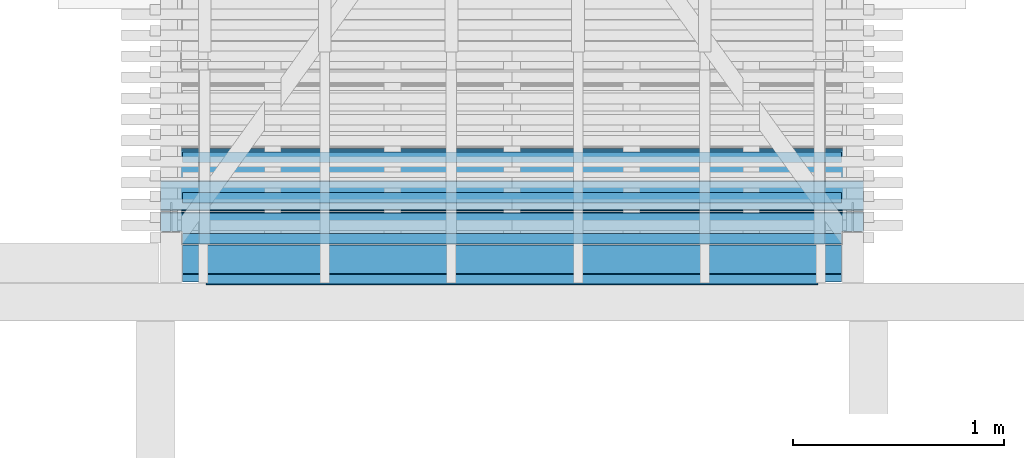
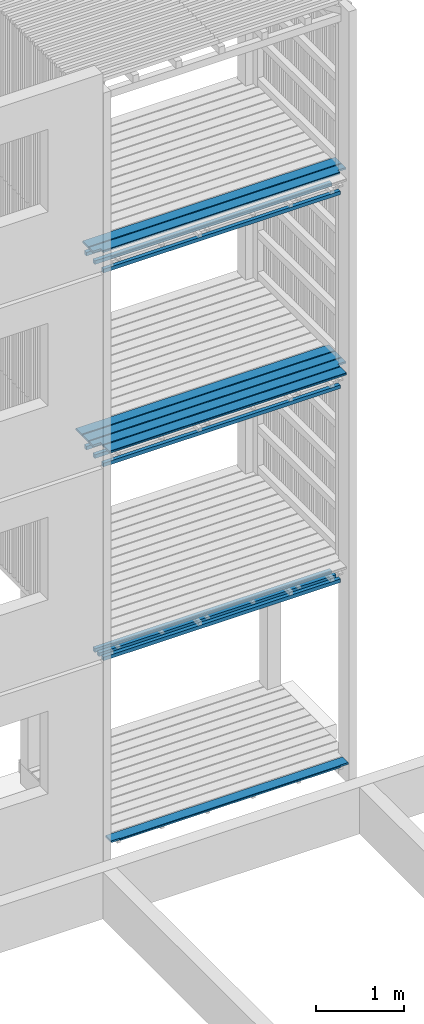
# One storey, part 111 of 182: 16 beams.
"""IFC2X3 building model written with IfcOpenShell, lengths in metres."""

import ifcopenshell
import ifcopenshell.guid

model = None  # the IFC model being written
_history = None  # IfcOwnerHistory: only IFC2X3 demands one
_inside = {}  # id of a spatial element -> (the spatial element, [elements in it])
_under = {}  # id of a project, library or spatial element -> (it, [spatial elements below it])
_declared = {}  # id of a project -> (the project, [libraries it declares])
_typed = {}  # id of a type object -> (the type object, [elements of that type])
_made_of = {}  # id of a material, layer set ... -> (it, [elements and type objects made of it])


def new_model(schema):
    """Start an empty IFC model of exactly this schema.

    Asked for "IFC4X3", IfcOpenShell would pick the latest addendum, in which some entities
    have other attributes; the version numbers below select the first issue.
    IFC2X3 requires an IfcOwnerHistory on every rooted entity: one is made here for all.
    """
    global model, _history
    if schema == "IFC4X3":
        model = ifcopenshell.file(schema_version=(4, 3, 0, 0))
    else:
        model = ifcopenshell.file(schema=schema)
    _inside.clear()
    _under.clear()
    _declared.clear()
    _typed.clear()
    _made_of.clear()
    _history = None
    if model.schema == "IFC2X3":
        org = make("IfcOrganization", Name="unknown")
        user = make(
            "IfcPersonAndOrganization",
            ThePerson=make("IfcPerson", FamilyName="unknown"),
            TheOrganization=org,
        )
        app = make(
            "IfcApplication",
            ApplicationDeveloper=org,
            Version="unknown",
            ApplicationFullName="unknown",
            ApplicationIdentifier="unknown",
        )
        _history = make(
            "IfcOwnerHistory",
            OwningUser=user,
            OwningApplication=app,
            ChangeAction="ADDED",
            CreationDate=0,
        )
    return model


def make(cls, **values):
    """One entity of the class cls with the attributes given. An attribute that is None is left unset."""
    return model.create_entity(
        cls, **{name: value for name, value in values.items() if value is not None}
    )


def rooted(cls, **values):
    """An entity with a GlobalId (a new one), such as an element, a storey or a relation."""
    return make(cls, GlobalId=ifcopenshell.guid.new(), OwnerHistory=_history, **values)


def si_unit(unit_type, name, prefix=None):
    """IfcSIUnit, for example si_unit("LENGTHUNIT", "METRE", prefix="MILLI")."""
    return make("IfcSIUnit", UnitType=unit_type, Prefix=prefix, Name=name)


def assignment(units):
    """IfcUnitAssignment: the units of a project."""
    return None if units is None else make("IfcUnitAssignment", Units=units)


def point(xyz):
    """IfcCartesianPoint."""
    return None if xyz is None else make("IfcCartesianPoint", Coordinates=xyz)


def direction(xyz):
    """IfcDirection."""
    return None if xyz is None else make("IfcDirection", DirectionRatios=xyz)


def frame(location, z_axis=None, x_axis=None):
    """IfcAxis2Placement3D, a coordinate frame: its origin and axes. An axis left out is left unset."""
    return make(
        "IfcAxis2Placement3D",
        Location=point(location),
        Axis=direction(z_axis),
        RefDirection=direction(x_axis),
    )


def origin():
    """The frame at (0, 0, 0) with its axes left unset."""
    return frame((0.0, 0.0, 0.0))


def place(relative_to, where):
    """IfcLocalPlacement: puts the frame where relative to a parent placement (None: the world)."""
    return make(
        "IfcLocalPlacement", PlacementRelTo=relative_to, RelativePlacement=where
    )


def context(
    kind, dimensions, precision=None, world=None, true_north=None, identifier=None
):
    """IfcGeometricRepresentationContext, for example the 3D "Model" context."""
    return make(
        "IfcGeometricRepresentationContext",
        ContextIdentifier=identifier,
        ContextType=kind,
        CoordinateSpaceDimension=dimensions,
        Precision=precision,
        WorldCoordinateSystem=world,
        TrueNorth=true_north,
    )


def project(units=None, contexts=None):
    """IfcProject with its units and contexts."""
    return rooted(
        "IfcProject",
        Name="project",
        RepresentationContexts=contexts,
        UnitsInContext=assignment(units),
    )


def spatial(cls, under=None, at=None, **own):
    """A site, building, storey or space (cls), placed at a placement, below another one or the project."""
    s = rooted(cls, ObjectPlacement=at, **own)
    if under is not None:
        _under.setdefault(under.id(), (under, []))[1].append(s)
    return s


def faces_of(points, faces, orient=None, outer=None):
    """IfcFace entities. A face is a list of loops; a loop is a list of indices into points, from 0.

    orient and outer hold one flag for each loop. By default every Orientation is true, the
    first loop of a face is its IfcFaceOuterBound and the others are IfcFaceBound.
    """
    made = []
    for i, loops in enumerate(faces):
        bounds = []
        for j, loop in enumerate(loops):
            is_outer = j == 0 if outer is None else outer[i][j]
            bounds.append(
                make(
                    "IfcFaceOuterBound" if is_outer else "IfcFaceBound",
                    Bound=make("IfcPolyLoop", Polygon=[points[k] for k in loop]),
                    Orientation=True if orient is None else orient[i][j],
                )
            )
        made.append(make("IfcFace", Bounds=bounds))
    return made


def faceted_brep(points, faces, orient=None, outer=None, voids=None):
    """IfcFacetedBrep: a solid bounded by flat faces; with voids (closed shells), ...WithVoids."""
    shared = [point(p) for p in points]
    hull = make("IfcClosedShell", CfsFaces=faces_of(shared, faces, orient, outer))
    if voids is None:
        return make("IfcFacetedBrep", Outer=hull)
    return make(
        "IfcFacetedBrepWithVoids",
        Outer=hull,
        Voids=[
            make(cls, CfsFaces=faces_of(shared, fs, o, b)) for cls, fs, o, b in voids
        ],
    )


def shape(context_of_items, identifier, shape_type, items):
    """IfcShapeRepresentation: the items that make up one representation, for example the "Body"."""
    return make(
        "IfcShapeRepresentation",
        ContextOfItems=context_of_items,
        RepresentationIdentifier=identifier,
        RepresentationType=shape_type,
        Items=items,
    )


def made_of(thing, what):
    """Note that an element or type object is made of a material, layer set ...; save() writes the relation."""
    if what is not None:
        _made_of.setdefault(what.id(), (what, []))[1].append(thing)
    return thing


def element(
    cls,
    number,
    at=None,
    inside=None,
    cuts=None,
    type_object=None,
    material=None,
    context=None,
    identifier="Body",
    shape_type=None,
    held_by="IfcProductDefinitionShape",
    body=None,
    shapes=None,
    **own,
):
    """One element of the class cls, such as IfcWall. Its Tag is "e" and its number.

    at: its placement. inside: the storey or other place that contains it. cuts: it is an
    opening in that element (IfcRelVoidsElement). A single representation is given by context,
    identifier, shape_type and body (its items); several are given by shapes. held_by: the class
    of the entity that holds the representations. save() writes the other relations.
    """
    e = rooted(cls, Tag="e%d" % number, ObjectPlacement=at, **own)
    if body is not None:
        shapes = [shape(context, identifier, shape_type, body)]
    if shapes is not None:
        e.Representation = make(held_by, Representations=shapes)
    if inside is not None:
        _inside.setdefault(inside.id(), (inside, []))[1].append(e)
    if cuts is not None:
        rooted(
            "IfcRelVoidsElement", RelatingBuildingElement=cuts, RelatedOpeningElement=e
        )
    if type_object is not None:
        _typed.setdefault(type_object.id(), (type_object, []))[1].append(e)
    return made_of(e, material)


def aggregate(whole, parts):
    """IfcRelAggregates: a whole, such as a stair, and the parts it consists of."""
    return rooted("IfcRelAggregates", RelatingObject=whole, RelatedObjects=parts)


def save(model, path):
    """Write the relations noted so far, then the file.

    IfcRelAggregates (storeys below a building ...), IfcRelContainedInSpatialStructure (elements
    in a storey), IfcRelDefinesByType, IfcRelAssociatesMaterial and IfcRelDeclares: one each for
    every whole, place, type object, material and project.
    """
    for whole, parts in _under.values():
        aggregate(whole, parts)
    for where, things in _inside.values():
        rooted(
            "IfcRelContainedInSpatialStructure",
            RelatedElements=things,
            RelatingStructure=where,
        )
    for kind, things in _typed.values():
        rooted("IfcRelDefinesByType", RelatedObjects=things, RelatingType=kind)
    for what, things in _made_of.values():
        rooted("IfcRelAssociatesMaterial", RelatedObjects=things, RelatingMaterial=what)
    for by, libraries in _declared.values():
        rooted("IfcRelDeclares", RelatingContext=by, RelatedDefinitions=libraries)
    model.write(path)


model = new_model("IFC2X3")

# Units and contexts
model_context = context("Model", 3, precision=1e-06, world=origin())
ifc_project = project(units=[si_unit("LENGTHUNIT", "METRE"), si_unit("PLANEANGLEUNIT", "RADIAN")], contexts=[model_context])

# Site, building, storey
site = spatial("IfcSite", under=ifc_project, CompositionType="ELEMENT")
building = spatial("IfcBuilding", under=site, CompositionType="ELEMENT")
storey = spatial("IfcBuildingStorey", under=building, Name="vs", CompositionType="ELEMENT", Elevation=-0.85)

# Beams
placement = place(None, origin())
beam_1_placement = place(placement, frame((56.24999999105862, 4.934577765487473, 0.033500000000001), z_axis=(0.0, 0.0, 1.0), x_axis=(-1.0, 0.0, 0.0)))
element("IfcBeam", 1, at=beam_1_placement, inside=storey, Name="Caillebotis", context=model_context, shape_type="Brep", body=[
    faceted_brep([(0.109999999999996, 0.072499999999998, 0.0085), (3.010000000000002, 0.072499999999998, 0.0085), (3.010000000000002, 0.072499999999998, -0.013500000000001), (0.109999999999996, 0.072499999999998, -0.0135), (0.109999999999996, 0.067499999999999, 0.0135), (3.010000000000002, 0.067499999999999, 0.0135), (3.010000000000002, 0.072499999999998, 0.0085), (0.109999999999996, 0.072499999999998, 0.0085), (0.109999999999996, 0.05950000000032, 0.0135), (0.109999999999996, 0.067499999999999, 0.0135), (0.109999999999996, 0.072499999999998, 0.0085), (0.109999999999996, 0.072499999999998, -0.0135), (0.109999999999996, 0.05950000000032, -0.0135), (0.109999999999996, 0.05950000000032, 0.0135), (0.109999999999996, 0.05950000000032, -0.0135), (-3e-15, 0.05950000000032, -0.0135), (-3e-15, 0.05950000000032, 0.0135), (-3e-15, -0.072500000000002, 0.008500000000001), (3.120000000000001, -0.072500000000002, 0.008500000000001), (3.120000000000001, -0.067500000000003, 0.0135), (-3e-15, -0.067500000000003, 0.0135), (-3e-15, -0.072500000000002, -0.0135), (-3e-15, -0.072500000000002, 0.008500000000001), (-3e-15, -0.067500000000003, 0.0135), (-3e-15, 0.05950000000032, 0.0135), (-3e-15, 0.05950000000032, -0.0135), (3.010000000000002, 0.067499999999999, 0.0135), (0.109999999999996, 0.067499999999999, 0.0135), (0.109999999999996, 0.05950000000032, 0.0135), (-3e-15, 0.05950000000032, 0.0135), (-3e-15, -0.067500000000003, 0.0135), (3.120000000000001, -0.067500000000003, 0.0135), (3.120000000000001, 0.05950000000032, 0.0135), (3.010000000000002, 0.05950000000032, 0.0135), (3.010000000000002, 0.05950000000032, -0.013500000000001), (3.010000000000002, 0.072499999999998, -0.013500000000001), (3.010000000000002, 0.072499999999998, 0.0085), (3.010000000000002, 0.067499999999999, 0.0135), (3.010000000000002, 0.05950000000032, 0.0135), (3.010000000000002, 0.05950000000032, -0.013500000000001), (3.010000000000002, 0.05950000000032, 0.0135), (3.120000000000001, 0.05950000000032, 0.0135), (3.120000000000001, 0.05950000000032, -0.013500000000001), (-3e-15, -0.072500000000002, -0.0135), (-3e-15, 0.05950000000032, -0.0135), (0.109999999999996, 0.05950000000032, -0.0135), (0.109999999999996, 0.072499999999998, -0.0135), (3.010000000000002, 0.072499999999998, -0.013500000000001), (3.010000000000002, 0.05950000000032, -0.013500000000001), (3.120000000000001, 0.05950000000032, -0.013500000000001), (3.120000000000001, -0.072500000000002, -0.013500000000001), (-3e-15, -0.072500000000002, 0.008500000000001), (-3e-15, -0.072500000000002, -0.0135), (3.120000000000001, -0.072500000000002, -0.013500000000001), (3.120000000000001, -0.072500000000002, 0.008500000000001), (3.120000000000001, 0.05950000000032, 0.0135), (3.120000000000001, -0.067500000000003, 0.0135), (3.120000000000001, -0.072500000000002, 0.008500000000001), (3.120000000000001, -0.072500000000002, -0.013500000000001), (3.120000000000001, 0.05950000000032, -0.013500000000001)], [[[0, 1, 2, 3]], [[4, 5, 6, 7]], [[8, 9, 10, 11, 12]], [[13, 14, 15, 16]], [[17, 18, 19, 20]], [[21, 22, 23, 24, 25]], [[26, 27, 28, 29, 30, 31, 32, 33]], [[34, 35, 36, 37, 38]], [[39, 40, 41, 42]], [[43, 44, 45, 46, 47, 48, 49, 50]], [[51, 52, 53, 54]], [[55, 56, 57, 58, 59]]]),
])
beam_2_placement = place(placement, frame((56.24999999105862, 5.273827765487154, 7.867999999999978), z_axis=(0.0, 0.0, 1.0), x_axis=(-1.0, 0.0, 0.0)))
element("IfcBeam", 2, at=beam_2_placement, inside=storey, Name="Bardage", context=model_context, shape_type="Brep", body=[
    faceted_brep([(3.120000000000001, 0.025000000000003, -0.025000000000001), (3.120000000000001, -0.024999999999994, -0.025000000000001), (-3e-15, -0.024999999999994, -0.025000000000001), (-3e-15, 0.025000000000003, -0.025000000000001), (-3e-15, -0.024999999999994, -0.025000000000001), (3.120000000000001, -0.024999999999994, -0.025000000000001), (3.120000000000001, -0.024999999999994, 0.024999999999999), (-3e-15, -0.024999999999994, 0.024999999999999), (3.120000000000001, -0.024999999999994, -0.025000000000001), (3.120000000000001, 0.025000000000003, -0.025000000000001), (3.120000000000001, 0.025000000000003, 0.024999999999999), (3.120000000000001, -0.024999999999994, 0.024999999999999), (3.120000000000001, 0.025000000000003, 0.024999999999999), (3.120000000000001, 0.025000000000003, -0.025000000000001), (-3e-15, 0.025000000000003, -0.025000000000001), (-3e-15, 0.025000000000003, 0.024999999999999), (-3e-15, -0.024999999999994, 0.024999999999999), (3.120000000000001, -0.024999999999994, 0.024999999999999), (3.120000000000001, 0.025000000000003, 0.024999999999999), (-3e-15, 0.025000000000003, 0.024999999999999), (-3e-15, -0.024999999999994, -0.025000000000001), (-3e-15, -0.024999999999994, 0.024999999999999), (-3e-15, 0.025000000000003, 0.024999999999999), (-3e-15, 0.025000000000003, -0.025000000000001)], [[[0, 1, 2, 3]], [[4, 5, 6, 7]], [[8, 9, 10, 11]], [[12, 13, 14, 15]], [[16, 17, 18, 19]], [[20, 21, 22, 23]]]),
])
beam_3_placement = place(placement, frame((56.35499999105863, 5.284577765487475, 8.13349999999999), z_axis=(0.0, 0.0, 1.0), x_axis=(-1.0, -2e-15, 0.0)))
element("IfcBeam", 3, at=beam_3_placement, inside=storey, Name="Caillebotis", context=model_context, shape_type="Brep", body=[
    faceted_brep([(3.329999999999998, -0.072500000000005, -0.013500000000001), (3.329999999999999, 0.072499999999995, -0.013500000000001), (3.329999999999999, 0.072499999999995, 0.008499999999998), (3.329999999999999, 0.067499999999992, 0.013499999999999), (3.329999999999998, -0.067500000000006, 0.013499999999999), (3.329999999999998, -0.072500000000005, 0.0085), (0.0, -0.072500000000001, 0.0085), (0.0, -0.067499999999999, 0.013499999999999), (0.0, 0.067500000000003, 0.013499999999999), (0.0, 0.072500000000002, 0.008499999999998), (0.0, 0.072500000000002, -0.013500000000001), (0.0, -0.072500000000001, -0.013500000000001), (3.329999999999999, 0.072499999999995, 0.008499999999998), (3.329999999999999, 0.072499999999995, -0.013500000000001), (0.0, 0.072500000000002, -0.013500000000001), (0.0, 0.072500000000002, 0.008499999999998), (3.329999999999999, 0.067499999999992, 0.013499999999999), (3.329999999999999, 0.072499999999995, 0.008499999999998), (0.0, 0.072500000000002, 0.008499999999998), (0.0, 0.067500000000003, 0.013499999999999), (3.329999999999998, -0.067500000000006, 0.013499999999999), (3.329999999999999, 0.067499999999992, 0.013499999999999), (0.0, 0.067500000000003, 0.013499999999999), (0.0, -0.067499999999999, 0.013499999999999), (3.329999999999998, -0.072500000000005, 0.0085), (3.329999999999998, -0.067500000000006, 0.013499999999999), (0.0, -0.067499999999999, 0.013499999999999), (0.0, -0.072500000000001, 0.0085), (3.329999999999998, -0.072500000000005, -0.013500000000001), (3.329999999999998, -0.072500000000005, 0.0085), (0.0, -0.072500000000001, 0.0085), (0.0, -0.072500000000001, -0.013500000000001), (0.0, 0.072500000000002, -0.013500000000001), (3.329999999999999, 0.072499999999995, -0.013500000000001), (3.329999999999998, -0.072500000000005, -0.013500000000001), (0.0, -0.072500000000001, -0.013500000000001)], [[[0, 1, 2, 3, 4, 5]], [[6, 7, 8, 9, 10, 11]], [[12, 13, 14, 15]], [[16, 17, 18, 19]], [[20, 21, 22, 23]], [[24, 25, 26, 27]], [[28, 29, 30, 31]], [[32, 33, 34, 35]]]),
])
beam_4_placement = place(placement, frame((56.24999999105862, 5.080077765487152, 7.867999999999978), z_axis=(0.0, 0.0, 1.0), x_axis=(-1.0, 0.0, 0.0)))
element("IfcBeam", 4, at=beam_4_placement, inside=storey, Name="Bardage", context=model_context, shape_type="Brep", body=[
    faceted_brep([(3.120000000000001, -0.025000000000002, 0.024999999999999), (3.120000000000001, -0.025000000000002, -0.025000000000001), (3.120000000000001, 0.024999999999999, -0.025000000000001), (3.120000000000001, 0.024999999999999, 0.024999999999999), (-3e-15, 0.024999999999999, 0.024999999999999), (-3e-15, 0.024999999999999, -0.025000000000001), (-3e-15, -0.024999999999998, -0.025000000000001), (-3e-15, -0.024999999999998, 0.024999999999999), (3.120000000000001, -0.025000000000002, -0.025000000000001), (3.120000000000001, -0.025000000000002, 0.024999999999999), (-3e-15, -0.024999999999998, 0.024999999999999), (-3e-15, -0.024999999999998, -0.025000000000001), (3.120000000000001, 0.024999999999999, -0.025000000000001), (3.120000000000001, -0.025000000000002, -0.025000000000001), (-3e-15, -0.024999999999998, -0.025000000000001), (-3e-15, 0.024999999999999, -0.025000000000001), (3.120000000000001, 0.024999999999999, 0.024999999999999), (3.120000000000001, 0.024999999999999, -0.025000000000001), (-3e-15, 0.024999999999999, -0.025000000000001), (-3e-15, 0.024999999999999, 0.024999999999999), (3.120000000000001, -0.025000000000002, 0.024999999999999), (3.120000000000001, 0.024999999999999, 0.024999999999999), (-3e-15, 0.024999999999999, 0.024999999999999), (-3e-15, -0.024999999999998, 0.024999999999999)], [[[0, 1, 2, 3]], [[4, 5, 6, 7]], [[8, 9, 10, 11]], [[12, 13, 14, 15]], [[16, 17, 18, 19]], [[20, 21, 22, 23]]]),
])
beam_5_placement = place(placement, frame((56.35499999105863, 5.434577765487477, 5.433499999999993), z_axis=(0.0, 0.0, 1.0), x_axis=(-1.0, -1e-15, 0.0)))
element("IfcBeam", 5, at=beam_5_placement, inside=storey, Name="Caillebotis", context=model_context, shape_type="Brep", body=[
    faceted_brep([(3.329999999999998, -0.072500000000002, -0.0135), (3.329999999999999, 0.072500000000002, -0.0135), (3.329999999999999, 0.072500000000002, 0.0085), (3.329999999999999, 0.067499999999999, 0.0135), (3.329999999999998, -0.067499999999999, 0.0135), (3.329999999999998, -0.072500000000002, 0.008500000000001), (0.0, -0.072499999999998, 0.008500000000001), (0.0, -0.067499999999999, 0.0135), (0.0, 0.067500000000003, 0.0135), (0.0, 0.072500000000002, 0.0085), (0.0, 0.072500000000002, -0.0135), (0.0, -0.072499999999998, -0.0135), (3.329999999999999, 0.072500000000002, 0.0085), (3.329999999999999, 0.072500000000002, -0.0135), (0.0, 0.072500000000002, -0.0135), (0.0, 0.072500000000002, 0.0085), (3.329999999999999, 0.067499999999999, 0.0135), (3.329999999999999, 0.072500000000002, 0.0085), (0.0, 0.072500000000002, 0.0085), (0.0, 0.067500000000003, 0.0135), (3.329999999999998, -0.067499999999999, 0.0135), (3.329999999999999, 0.067499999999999, 0.0135), (0.0, 0.067500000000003, 0.0135), (0.0, -0.067499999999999, 0.0135), (3.329999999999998, -0.072500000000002, 0.008500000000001), (3.329999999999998, -0.067499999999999, 0.0135), (0.0, -0.067499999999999, 0.0135), (0.0, -0.072499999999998, 0.008500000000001), (3.329999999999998, -0.072500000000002, -0.0135), (3.329999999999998, -0.072500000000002, 0.008500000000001), (0.0, -0.072499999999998, 0.008500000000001), (0.0, -0.072499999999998, -0.0135), (0.0, 0.072500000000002, -0.0135), (3.329999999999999, 0.072500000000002, -0.0135), (3.329999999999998, -0.072500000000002, -0.0135), (0.0, -0.072499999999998, -0.0135)], [[[0, 1, 2, 3, 4, 5]], [[6, 7, 8, 9, 10, 11]], [[12, 13, 14, 15]], [[16, 17, 18, 19]], [[20, 21, 22, 23]], [[24, 25, 26, 27]], [[28, 29, 30, 31]], [[32, 33, 34, 35]]]),
])
beam_6_placement = place(placement, frame((56.24999999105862, 5.467577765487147, 5.167999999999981), z_axis=(0.0, 0.0, 1.0), x_axis=(-1.0, 0.0, 0.0)))
element("IfcBeam", 6, at=beam_6_placement, inside=storey, Name="Bardage", context=model_context, shape_type="Brep", body=[
    faceted_brep([(3.120000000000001, 0.025000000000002, -0.025), (3.120000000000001, -0.025000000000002, -0.025), (-3e-15, -0.025000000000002, -0.025), (-3e-15, 0.024999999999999, -0.025), (-3e-15, -0.025000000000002, -0.025), (3.120000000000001, -0.025000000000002, -0.025), (3.120000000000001, -0.025000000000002, 0.025000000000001), (-3e-15, -0.025000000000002, 0.025000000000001), (3.120000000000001, -0.025000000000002, -0.025), (3.120000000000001, 0.025000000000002, -0.025), (3.120000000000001, 0.025000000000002, 0.025000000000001), (3.120000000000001, -0.025000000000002, 0.025000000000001), (3.120000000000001, 0.025000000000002, 0.025000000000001), (3.120000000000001, 0.025000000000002, -0.025), (-3e-15, 0.024999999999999, -0.025), (-3e-15, 0.024999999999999, 0.025000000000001), (-3e-15, -0.025000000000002, 0.025000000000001), (3.120000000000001, -0.025000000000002, 0.025000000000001), (3.120000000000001, 0.025000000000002, 0.025000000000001), (-3e-15, 0.024999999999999, 0.025000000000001), (-3e-15, -0.025000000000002, -0.025), (-3e-15, -0.025000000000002, 0.025000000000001), (-3e-15, 0.024999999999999, 0.025000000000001), (-3e-15, 0.024999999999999, -0.025)], [[[0, 1, 2, 3]], [[4, 5, 6, 7]], [[8, 9, 10, 11]], [[12, 13, 14, 15]], [[16, 17, 18, 19]], [[20, 21, 22, 23]]]),
])
beam_7_placement = place(placement, frame((56.35499999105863, 5.284577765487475, 5.433499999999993), z_axis=(0.0, 0.0, 1.0), x_axis=(-1.0, -2e-15, 0.0)))
element("IfcBeam", 7, at=beam_7_placement, inside=storey, Name="Caillebotis", context=model_context, shape_type="Brep", body=[
    faceted_brep([(3.329999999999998, -0.072500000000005, -0.0135), (3.329999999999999, 0.072499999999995, -0.0135), (3.329999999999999, 0.072499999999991, 0.0085), (3.329999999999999, 0.067499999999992, 0.0135), (3.329999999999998, -0.067500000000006, 0.0135), (3.329999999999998, -0.072500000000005, 0.008500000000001), (0.0, -0.072500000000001, 0.008500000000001), (0.0, -0.067499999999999, 0.0135), (0.0, 0.067500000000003, 0.0135), (0.0, 0.072500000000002, 0.0085), (0.0, 0.072500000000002, -0.0135), (0.0, -0.072500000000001, -0.0135), (3.329999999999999, 0.072499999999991, 0.0085), (3.329999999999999, 0.072499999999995, -0.0135), (0.0, 0.072500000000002, -0.0135), (0.0, 0.072500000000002, 0.0085), (3.329999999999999, 0.067499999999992, 0.0135), (3.329999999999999, 0.072499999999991, 0.0085), (0.0, 0.072500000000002, 0.0085), (0.0, 0.067500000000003, 0.0135), (3.329999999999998, -0.067500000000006, 0.0135), (3.329999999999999, 0.067499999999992, 0.0135), (0.0, 0.067500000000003, 0.0135), (0.0, -0.067499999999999, 0.0135), (3.329999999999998, -0.072500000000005, 0.008500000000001), (3.329999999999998, -0.067500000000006, 0.0135), (0.0, -0.067499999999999, 0.0135), (0.0, -0.072500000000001, 0.008500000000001), (3.329999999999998, -0.072500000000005, -0.0135), (3.329999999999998, -0.072500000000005, 0.008500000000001), (0.0, -0.072500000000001, 0.008500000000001), (0.0, -0.072500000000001, -0.0135), (0.0, 0.072500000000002, -0.0135), (3.329999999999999, 0.072499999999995, -0.0135), (3.329999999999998, -0.072500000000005, -0.0135), (0.0, -0.072500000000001, -0.0135)], [[[0, 1, 2, 3, 4, 5]], [[6, 7, 8, 9, 10, 11]], [[12, 13, 14, 15]], [[16, 17, 18, 19]], [[20, 21, 22, 23]], [[24, 25, 26, 27]], [[28, 29, 30, 31]], [[32, 33, 34, 35]]]),
])
beam_8_placement = place(placement, frame((56.24999999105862, 5.080077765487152, 2.467999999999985), z_axis=(0.0, 0.0, 1.0), x_axis=(-1.0, 0.0, 0.0)))
element("IfcBeam", 8, at=beam_8_placement, inside=storey, Name="Bardage", context=model_context, shape_type="Brep", body=[
    faceted_brep([(3.120000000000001, -0.025000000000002, 0.025), (3.120000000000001, -0.025000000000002, -0.025), (3.120000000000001, 0.024999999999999, -0.025), (3.120000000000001, 0.024999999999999, 0.025), (-3e-15, 0.024999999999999, 0.025), (-3e-15, 0.024999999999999, -0.025), (-3e-15, -0.025000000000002, -0.025), (-3e-15, -0.025000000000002, 0.025), (3.120000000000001, -0.025000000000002, -0.025), (3.120000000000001, -0.025000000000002, 0.025), (-3e-15, -0.025000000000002, 0.025), (-3e-15, -0.025000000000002, -0.025), (3.120000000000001, 0.024999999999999, -0.025), (3.120000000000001, -0.025000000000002, -0.025), (-3e-15, -0.025000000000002, -0.025), (-3e-15, 0.024999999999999, -0.025), (3.120000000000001, 0.024999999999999, 0.025), (3.120000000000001, 0.024999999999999, -0.025), (-3e-15, 0.024999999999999, -0.025), (-3e-15, 0.024999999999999, 0.025), (3.120000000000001, -0.025000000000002, 0.025), (3.120000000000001, 0.024999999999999, 0.025), (-3e-15, 0.024999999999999, 0.025), (-3e-15, -0.025000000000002, 0.025)], [[[0, 1, 2, 3]], [[4, 5, 6, 7]], [[8, 9, 10, 11]], [[12, 13, 14, 15]], [[16, 17, 18, 19]], [[20, 21, 22, 23]]]),
])
beam_9_placement = place(placement, frame((56.24999999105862, 5.273827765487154, 2.467999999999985), z_axis=(0.0, 0.0, 1.0), x_axis=(-1.0, 0.0, 0.0)))
element("IfcBeam", 9, at=beam_9_placement, inside=storey, Name="Bardage", context=model_context, shape_type="Brep", body=[
    faceted_brep([(3.120000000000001, 0.025000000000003, -0.025), (3.120000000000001, -0.024999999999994, -0.025), (-3e-15, -0.024999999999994, -0.025), (-3e-15, 0.025000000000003, -0.025), (-3e-15, -0.024999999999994, -0.025), (3.120000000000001, -0.024999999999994, -0.025), (3.120000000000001, -0.024999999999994, 0.025), (-3e-15, -0.024999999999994, 0.025), (3.120000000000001, -0.024999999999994, -0.025), (3.120000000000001, 0.025000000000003, -0.025), (3.120000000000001, 0.025000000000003, 0.025), (3.120000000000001, -0.024999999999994, 0.025), (3.120000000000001, 0.025000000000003, 0.025), (3.120000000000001, 0.025000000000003, -0.025), (-3e-15, 0.025000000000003, -0.025), (-3e-15, 0.025000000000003, 0.025), (-3e-15, -0.024999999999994, 0.025), (3.120000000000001, -0.024999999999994, 0.025), (3.120000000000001, 0.025000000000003, 0.025), (-3e-15, 0.025000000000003, 0.025), (-3e-15, -0.024999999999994, -0.025), (-3e-15, -0.024999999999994, 0.025), (-3e-15, 0.025000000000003, 0.025), (-3e-15, 0.025000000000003, -0.025)], [[[0, 1, 2, 3]], [[4, 5, 6, 7]], [[8, 9, 10, 11]], [[12, 13, 14, 15]], [[16, 17, 18, 19]], [[20, 21, 22, 23]]]),
])
beam_10_placement = place(placement, frame((56.24999999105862, 4.984577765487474, 5.433499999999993), z_axis=(0.0, 0.0, 1.0), x_axis=(-1.0, 0.0, 0.0)))
element("IfcBeam", 10, at=beam_10_placement, inside=storey, Name="Caillebotis", context=model_context, shape_type="Brep", body=[
    faceted_brep([(-3e-15, -0.072500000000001, 0.008500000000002), (-3e-15, -0.067500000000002, 0.0135), (-3e-15, 0.067499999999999, 0.0135), (-3e-15, 0.072499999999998, 0.008500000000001), (-3e-15, 0.072499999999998, -0.0135), (-3e-15, -0.072500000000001, -0.0135), (-3e-15, 0.072499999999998, -0.0135), (-3e-15, 0.072499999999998, 0.008500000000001), (3.120000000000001, 0.072499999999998, 0.0085), (3.120000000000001, 0.072499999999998, -0.0135), (-3e-15, -0.072500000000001, -0.0135), (-3e-15, 0.072499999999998, -0.0135), (3.120000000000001, 0.072499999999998, -0.0135), (3.120000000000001, -0.072500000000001, -0.0135), (-3e-15, -0.072500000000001, 0.008500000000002), (-3e-15, -0.072500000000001, -0.0135), (3.120000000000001, -0.072500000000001, -0.0135), (3.120000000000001, -0.072500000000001, 0.008500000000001), (-3e-15, -0.067500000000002, 0.0135), (-3e-15, -0.072500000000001, 0.008500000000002), (3.120000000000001, -0.072500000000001, 0.008500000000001), (3.120000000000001, -0.067500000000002, 0.0135), (-3e-15, 0.067499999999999, 0.0135), (-3e-15, -0.067500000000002, 0.0135), (3.120000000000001, -0.067500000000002, 0.0135), (3.120000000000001, 0.067499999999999, 0.0135), (-3e-15, 0.072499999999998, 0.008500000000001), (-3e-15, 0.067499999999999, 0.0135), (3.120000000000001, 0.067499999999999, 0.0135), (3.120000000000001, 0.072499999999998, 0.0085), (3.120000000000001, -0.072500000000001, -0.0135), (3.120000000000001, 0.072499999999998, -0.0135), (3.120000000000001, 0.072499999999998, 0.0085), (3.120000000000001, 0.067499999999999, 0.0135), (3.120000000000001, -0.067500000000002, 0.0135), (3.120000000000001, -0.072500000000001, 0.008500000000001)], [[[0, 1, 2, 3, 4, 5]], [[6, 7, 8, 9]], [[10, 11, 12, 13]], [[14, 15, 16, 17]], [[18, 19, 20, 21]], [[22, 23, 24, 25]], [[26, 27, 28, 29]], [[30, 31, 32, 33, 34, 35]]]),
])
beam_11_placement = place(placement, frame((56.24999999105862, 5.467577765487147, 7.867999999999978), z_axis=(0.0, 0.0, 1.0), x_axis=(-1.0, 0.0, 0.0)))
element("IfcBeam", 11, at=beam_11_placement, inside=storey, Name="Bardage", context=model_context, shape_type="Brep", body=[
    faceted_brep([(3.120000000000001, 0.025000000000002, -0.025000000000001), (3.120000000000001, -0.025000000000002, -0.025000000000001), (-3e-15, -0.025000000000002, -0.025000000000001), (-3e-15, 0.024999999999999, -0.025000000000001), (-3e-15, -0.025000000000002, -0.025000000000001), (3.120000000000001, -0.025000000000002, -0.025000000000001), (3.120000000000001, -0.025000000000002, 0.024999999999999), (-3e-15, -0.025000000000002, 0.024999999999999), (3.120000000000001, -0.025000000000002, -0.025000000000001), (3.120000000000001, 0.025000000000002, -0.025000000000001), (3.120000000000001, 0.025000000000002, 0.024999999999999), (3.120000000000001, -0.025000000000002, 0.024999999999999), (3.120000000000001, 0.025000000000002, 0.024999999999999), (3.120000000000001, 0.025000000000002, -0.025000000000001), (-3e-15, 0.024999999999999, -0.025000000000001), (-3e-15, 0.024999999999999, 0.024999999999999), (-3e-15, -0.025000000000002, 0.024999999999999), (3.120000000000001, -0.025000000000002, 0.024999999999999), (3.120000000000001, 0.025000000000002, 0.024999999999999), (-3e-15, 0.024999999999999, 0.024999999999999), (-3e-15, -0.025000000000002, -0.025000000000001), (-3e-15, -0.025000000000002, 0.024999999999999), (-3e-15, 0.024999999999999, 0.024999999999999), (-3e-15, 0.024999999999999, -0.025000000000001)], [[[0, 1, 2, 3]], [[4, 5, 6, 7]], [[8, 9, 10, 11]], [[12, 13, 14, 15]], [[16, 17, 18, 19]], [[20, 21, 22, 23]]]),
])
beam_12_placement = place(placement, frame((56.24999999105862, 5.273827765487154, 5.167999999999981), z_axis=(0.0, 0.0, 1.0), x_axis=(-1.0, 0.0, 0.0)))
element("IfcBeam", 12, at=beam_12_placement, inside=storey, Name="Bardage", context=model_context, shape_type="Brep", body=[
    faceted_brep([(3.120000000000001, 0.025000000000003, -0.025), (3.120000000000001, -0.024999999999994, -0.025), (-3e-15, -0.024999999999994, -0.025), (-3e-15, 0.025000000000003, -0.025), (-3e-15, -0.024999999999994, -0.025), (3.120000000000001, -0.024999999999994, -0.025), (3.120000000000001, -0.024999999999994, 0.025000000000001), (-3e-15, -0.024999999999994, 0.025000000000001), (3.120000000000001, -0.024999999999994, -0.025), (3.120000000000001, 0.025000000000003, -0.025), (3.120000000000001, 0.025000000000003, 0.025000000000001), (3.120000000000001, -0.024999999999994, 0.025000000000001), (3.120000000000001, 0.025000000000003, 0.025000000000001), (3.120000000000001, 0.025000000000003, -0.025), (-3e-15, 0.025000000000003, -0.025), (-3e-15, 0.025000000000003, 0.025000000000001), (-3e-15, -0.024999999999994, 0.025000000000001), (3.120000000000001, -0.024999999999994, 0.025000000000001), (3.120000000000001, 0.025000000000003, 0.025000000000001), (-3e-15, 0.025000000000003, 0.025000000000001), (-3e-15, -0.024999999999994, -0.025), (-3e-15, -0.024999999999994, 0.025000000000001), (-3e-15, 0.025000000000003, 0.025000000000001), (-3e-15, 0.025000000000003, -0.025)], [[[0, 1, 2, 3]], [[4, 5, 6, 7]], [[8, 9, 10, 11]], [[12, 13, 14, 15]], [[16, 17, 18, 19]], [[20, 21, 22, 23]]]),
])
beam_13_placement = place(placement, frame((56.35499999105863, 5.134577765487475, 5.433499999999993), z_axis=(0.0, 0.0, 1.0), x_axis=(-1.0, 0.0, 0.0)))
element("IfcBeam", 13, at=beam_13_placement, inside=storey, Name="Caillebotis", context=model_context, shape_type="Brep", body=[
    faceted_brep([(0.0, -0.072499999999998, -0.0135), (0.0, -0.072499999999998, 0.008500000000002), (0.0, -0.067499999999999, 0.0135), (0.0, 0.019500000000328, 0.0135), (0.0, 0.019500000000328, -0.0135), (3.329999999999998, -0.067499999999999, 0.0135), (3.329999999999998, 0.019500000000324, 0.0135), (3.225000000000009, 0.019500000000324, 0.0135), (3.225000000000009, 0.067500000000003, 0.0135), (0.105000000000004, 0.067500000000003, 0.0135), (0.105000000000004, 0.019500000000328, 0.0135), (0.0, 0.019500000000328, 0.0135), (0.0, -0.067499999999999, 0.0135), (0.105000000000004, 0.019500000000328, 0.0135), (0.105000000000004, 0.067500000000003, 0.0135), (0.105000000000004, 0.072500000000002, 0.008500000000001), (0.105000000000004, 0.072500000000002, -0.0135), (0.105000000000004, 0.019500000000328, -0.0135), (0.105000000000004, 0.072500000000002, 0.008500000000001), (0.105000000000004, 0.067500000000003, 0.0135), (3.225000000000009, 0.067500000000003, 0.0135), (3.225000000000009, 0.072500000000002, 0.0085), (0.105000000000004, 0.072500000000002, -0.0135), (0.105000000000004, 0.072500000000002, 0.008500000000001), (3.225000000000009, 0.072500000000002, 0.0085), (3.225000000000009, 0.072500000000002, -0.0135), (3.225000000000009, 0.072500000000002, -0.0135), (3.225000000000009, 0.072500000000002, 0.0085), (3.225000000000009, 0.067500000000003, 0.0135), (3.225000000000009, 0.019500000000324, 0.0135), (3.225000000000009, 0.019500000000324, -0.0135), (3.225000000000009, 0.019500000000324, -0.0135), (3.225000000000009, 0.019500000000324, 0.0135), (3.329999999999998, 0.019500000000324, 0.0135), (3.329999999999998, 0.019500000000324, -0.0135), (3.329999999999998, -0.072499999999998, 0.008500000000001), (3.329999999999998, -0.072499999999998, -0.0135), (3.329999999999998, 0.019500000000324, -0.0135), (3.329999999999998, 0.019500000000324, 0.0135), (3.329999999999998, -0.067499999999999, 0.0135), (3.329999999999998, -0.072499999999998, 0.008500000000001), (3.329999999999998, -0.067499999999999, 0.0135), (0.0, -0.067499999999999, 0.0135), (0.0, -0.072499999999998, 0.008500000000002), (3.329999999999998, -0.072499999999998, -0.0135), (3.329999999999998, -0.072499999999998, 0.008500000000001), (0.0, -0.072499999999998, 0.008500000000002), (0.0, -0.072499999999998, -0.0135), (0.105000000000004, 0.019500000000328, -0.0135), (0.105000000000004, 0.072500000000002, -0.0135), (3.225000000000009, 0.072500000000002, -0.0135), (3.225000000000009, 0.019500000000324, -0.0135), (3.329999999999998, 0.019500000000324, -0.0135), (3.329999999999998, -0.072499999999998, -0.0135), (0.0, -0.072499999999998, -0.0135), (0.0, 0.019500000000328, -0.0135), (0.0, 0.019500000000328, 0.0135), (0.105000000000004, 0.019500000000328, 0.0135), (0.105000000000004, 0.019500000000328, -0.0135), (0.0, 0.019500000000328, -0.0135)], [[[0, 1, 2, 3, 4]], [[5, 6, 7, 8, 9, 10, 11, 12]], [[13, 14, 15, 16, 17]], [[18, 19, 20, 21]], [[22, 23, 24, 25]], [[26, 27, 28, 29, 30]], [[31, 32, 33, 34]], [[35, 36, 37, 38, 39]], [[40, 41, 42, 43]], [[44, 45, 46, 47]], [[48, 49, 50, 51, 52, 53, 54, 55]], [[56, 57, 58, 59]]]),
])
beam_14_placement = place(placement, frame((56.24999999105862, 5.176952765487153, 2.467999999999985), z_axis=(0.0, 0.0, 1.0), x_axis=(-1.0, 0.0, 0.0)))
element("IfcBeam", 14, at=beam_14_placement, inside=storey, Name="Bardage", context=model_context, shape_type="Brep", body=[
    faceted_brep([(3.120000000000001, 0.025000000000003, -0.025), (3.120000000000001, -0.024999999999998, -0.025), (-3e-15, -0.024999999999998, -0.025), (-3e-15, 0.025000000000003, -0.025), (-3e-15, -0.024999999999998, -0.025), (3.120000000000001, -0.024999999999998, -0.025), (3.120000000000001, -0.024999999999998, 0.025), (-3e-15, -0.024999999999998, 0.025), (3.120000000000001, -0.024999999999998, -0.025), (3.120000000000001, 0.025000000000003, -0.025), (3.120000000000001, 0.025000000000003, 0.025), (3.120000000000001, -0.024999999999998, 0.025), (3.120000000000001, 0.025000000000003, 0.025), (3.120000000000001, 0.025000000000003, -0.025), (-3e-15, 0.025000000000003, -0.025), (-3e-15, 0.025000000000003, 0.025), (-3e-15, -0.024999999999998, 0.025), (3.120000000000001, -0.024999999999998, 0.025), (3.120000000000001, 0.025000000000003, 0.025), (-3e-15, 0.025000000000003, 0.025), (-3e-15, -0.024999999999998, -0.025), (-3e-15, -0.024999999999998, 0.025), (-3e-15, 0.025000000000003, 0.025), (-3e-15, 0.025000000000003, -0.025)], [[[0, 1, 2, 3]], [[4, 5, 6, 7]], [[8, 9, 10, 11]], [[12, 13, 14, 15]], [[16, 17, 18, 19]], [[20, 21, 22, 23]]]),
])
beam_15_placement = place(placement, frame((56.24999999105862, 5.080077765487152, 5.167999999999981), z_axis=(0.0, 0.0, 1.0), x_axis=(-1.0, 0.0, 0.0)))
element("IfcBeam", 15, at=beam_15_placement, inside=storey, Name="Bardage", context=model_context, shape_type="Brep", body=[
    faceted_brep([(3.120000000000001, -0.025000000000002, 0.025000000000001), (3.120000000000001, -0.025000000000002, -0.025), (3.120000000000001, 0.024999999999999, -0.025), (3.120000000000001, 0.024999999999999, 0.025000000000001), (-3e-15, 0.024999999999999, 0.025000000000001), (-3e-15, 0.024999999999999, -0.025), (-3e-15, -0.024999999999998, -0.025), (-3e-15, -0.024999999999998, 0.025000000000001), (3.120000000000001, -0.025000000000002, -0.025), (3.120000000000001, -0.025000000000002, 0.025000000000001), (-3e-15, -0.024999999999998, 0.025000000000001), (-3e-15, -0.024999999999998, -0.025), (3.120000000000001, 0.024999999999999, -0.025), (3.120000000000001, -0.025000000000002, -0.025), (-3e-15, -0.024999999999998, -0.025), (-3e-15, 0.024999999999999, -0.025), (3.120000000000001, 0.024999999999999, 0.025000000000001), (3.120000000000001, 0.024999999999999, -0.025), (-3e-15, 0.024999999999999, -0.025), (-3e-15, 0.024999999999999, 0.025000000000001), (3.120000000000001, -0.025000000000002, 0.025000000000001), (3.120000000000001, 0.024999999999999, 0.025000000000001), (-3e-15, 0.024999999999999, 0.025000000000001), (-3e-15, -0.024999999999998, 0.025000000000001)], [[[0, 1, 2, 3]], [[4, 5, 6, 7]], [[8, 9, 10, 11]], [[12, 13, 14, 15]], [[16, 17, 18, 19]], [[20, 21, 22, 23]]]),
])
beam_16_placement = place(placement, frame((56.35499999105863, 5.134577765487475, 8.13349999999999), z_axis=(0.0, 0.0, 1.0), x_axis=(-1.0, 0.0, 0.0)))
element("IfcBeam", 16, at=beam_16_placement, inside=storey, Name="Caillebotis", context=model_context, shape_type="Brep", body=[
    faceted_brep([(0.0, -0.072499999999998, -0.013500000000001), (0.0, -0.072499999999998, 0.0085), (0.0, -0.067499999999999, 0.013499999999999), (0.0, 0.019500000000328, 0.013499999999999), (0.0, 0.019500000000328, -0.013500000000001), (3.329999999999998, -0.067499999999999, 0.013499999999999), (3.329999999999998, 0.019500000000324, 0.013499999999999), (3.225000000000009, 0.019500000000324, 0.013499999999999), (3.225000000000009, 0.067500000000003, 0.013499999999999), (0.105000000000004, 0.067500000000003, 0.013499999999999), (0.105000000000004, 0.019500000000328, 0.013499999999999), (0.0, 0.019500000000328, 0.013499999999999), (0.0, -0.067499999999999, 0.013499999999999), (0.105000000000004, 0.019500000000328, 0.013499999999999), (0.105000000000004, 0.067500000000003, 0.013499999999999), (0.105000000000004, 0.072500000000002, 0.0085), (0.105000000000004, 0.072500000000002, -0.013500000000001), (0.105000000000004, 0.019500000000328, -0.013500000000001), (0.105000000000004, 0.072500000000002, 0.0085), (0.105000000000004, 0.067500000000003, 0.013499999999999), (3.225000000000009, 0.067500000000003, 0.013499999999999), (3.225000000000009, 0.072500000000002, 0.008499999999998), (0.105000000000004, 0.072500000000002, -0.013500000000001), (0.105000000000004, 0.072500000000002, 0.0085), (3.225000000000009, 0.072500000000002, 0.008499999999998), (3.225000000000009, 0.072500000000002, -0.013500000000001), (3.225000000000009, 0.072500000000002, -0.013500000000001), (3.225000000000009, 0.072500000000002, 0.008499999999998), (3.225000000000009, 0.067500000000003, 0.013499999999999), (3.225000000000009, 0.019500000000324, 0.013499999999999), (3.225000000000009, 0.019500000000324, -0.013500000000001), (3.225000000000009, 0.019500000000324, -0.013500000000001), (3.225000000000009, 0.019500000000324, 0.013499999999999), (3.329999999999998, 0.019500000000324, 0.013499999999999), (3.329999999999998, 0.019500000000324, -0.013500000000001), (3.329999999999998, -0.072499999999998, 0.0085), (3.329999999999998, -0.072499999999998, -0.013500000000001), (3.329999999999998, 0.019500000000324, -0.013500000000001), (3.329999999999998, 0.019500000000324, 0.013499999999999), (3.329999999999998, -0.067499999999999, 0.013499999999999), (3.329999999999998, -0.072499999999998, 0.0085), (3.329999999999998, -0.067499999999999, 0.013499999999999), (0.0, -0.067499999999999, 0.013499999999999), (0.0, -0.072499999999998, 0.0085), (3.329999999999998, -0.072499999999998, -0.013500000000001), (3.329999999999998, -0.072499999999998, 0.0085), (0.0, -0.072499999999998, 0.0085), (0.0, -0.072499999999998, -0.013500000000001), (0.105000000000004, 0.019500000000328, -0.013500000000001), (0.105000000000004, 0.072500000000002, -0.013500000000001), (3.225000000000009, 0.072500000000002, -0.013500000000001), (3.225000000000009, 0.019500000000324, -0.013500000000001), (3.329999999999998, 0.019500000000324, -0.013500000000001), (3.329999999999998, -0.072499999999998, -0.013500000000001), (0.0, -0.072499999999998, -0.013500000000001), (0.0, 0.019500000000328, -0.013500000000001), (0.0, 0.019500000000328, 0.013499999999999), (0.105000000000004, 0.019500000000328, 0.013499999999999), (0.105000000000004, 0.019500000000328, -0.013500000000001), (0.0, 0.019500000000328, -0.013500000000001)], [[[0, 1, 2, 3, 4]], [[5, 6, 7, 8, 9, 10, 11, 12]], [[13, 14, 15, 16, 17]], [[18, 19, 20, 21]], [[22, 23, 24, 25]], [[26, 27, 28, 29, 30]], [[31, 32, 33, 34]], [[35, 36, 37, 38, 39]], [[40, 41, 42, 43]], [[44, 45, 46, 47]], [[48, 49, 50, 51, 52, 53, 54, 55]], [[56, 57, 58, 59]]]),
])

save(model, "model.ifc")
